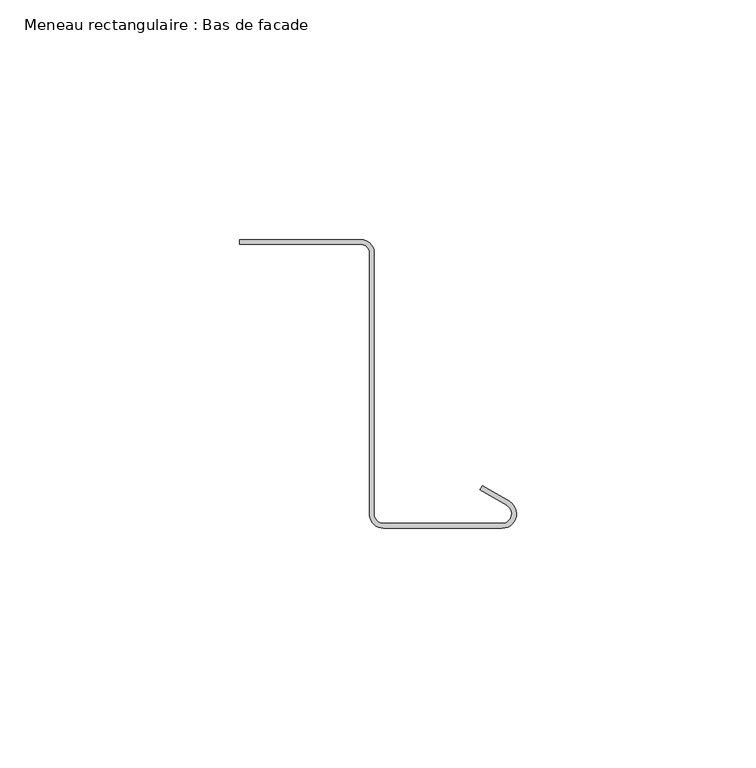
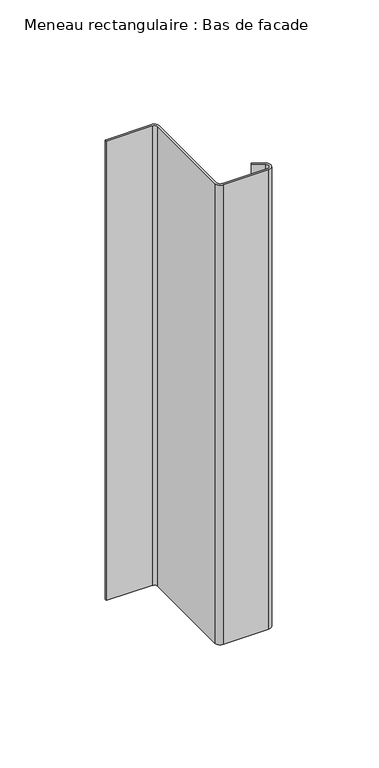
"""IFC4 building model written with IfcOpenShell, lengths in millimetres: member geometry, Meneau rectangulaire : Bas de facade."""

from ifc_helpers import new_model, si_unit, point, frame, frame_2d, origin, place, context, project, spatial, polyline, circle_curve, trimmed, segment, composite_curve, outline, extrude, source, transform, mapped, element, save


def meneau_rectangulaire_bas_de_facade_e72d7a95(model_context):
    return source(origin(), model_context, "Body", "SweptSolid", [
        extrude(outline(composite_curve([segment(trimmed(circle_curve(frame_2d((-32.4584179, 0.2088923)), 2.75), [point((-32.4584179, 2.9588923))], [point((-29.7143802, 0.3898824))], False, "CARTESIAN"), True, "CONTINUOUS"), segment(polyline([(-29.7143802, 0.3898824), (-29.7143802, -54.5495817)]), True, "CONTINUOUS"), segment(trimmed(circle_curve(frame_2d((-27.735368, -54.2605998)), 2.0), [point((-29.7143802, -54.5495817))], [point((-27.735368, -56.2605998))], True, "CARTESIAN"), True, "CONTINUOUS"), segment(polyline([(-27.735368, -56.2605998), (-3.0, -56.2605998)]), True, "CONTINUOUS"), segment(trimmed(circle_curve(frame_2d((-3.0, -54.2605998)), 2.0), [point((-3.0, -56.2605998))], [point((-2.0, -52.528549))], True, "CARTESIAN"), True, "CONTINUOUS"), segment(polyline([(-2.0, -52.528549), (-7.6638061, -49.258549), (-7.1638061, -48.3925235), (-1.5, -51.6625235)]), True, "CONTINUOUS"), segment(trimmed(circle_curve(frame_2d((-3.0, -54.2605998)), 3.0), [point((-1.5, -51.6625235))], [point((-3.0, -57.2605998))], False, "CARTESIAN"), True, "CONTINUOUS"), segment(polyline([(-3.0, -57.2605998), (-27.735368, -57.2605998)]), True, "CONTINUOUS"), segment(trimmed(circle_curve(frame_2d((-27.735368, -54.2605998)), 3.0), [point((-27.735368, -57.2605998))], [point((-30.7239521, -54.522067))], False, "CARTESIAN"), True, "CONTINUOUS"), segment(polyline([(-30.7239521, -54.522067), (-30.7239521, 0.4415475)]), True, "CONTINUOUS"), segment(trimmed(circle_curve(frame_2d((-32.4584179, 0.2088923)), 1.75), [point((-30.7239521, 0.4415475))], [point((-32.4584179, 1.9588923))], True, "CARTESIAN"), True, "CONTINUOUS"), segment(polyline([(-32.4584179, 1.9588923), (-57.8548383, 1.9588923), (-57.8548383, 2.9588923), (-32.4584179, 2.9588923)]), True, "CONTINUOUS")], self_intersect=False)), frame((0.0, 0.0, -267.0), z_axis=(0.0, 0.0, 1.0), x_axis=(1.0, 0.0, 0.0)), (0.0, 0.0, 1.0), 267.0),
    ])


if __name__ == "__main__":
    model = new_model("IFC4")
    model_context = context("Model", 3, world=origin())
    ifc_project = project(units=[si_unit("LENGTHUNIT", "METRE", prefix="MILLI")], contexts=[model_context])
    site = spatial("IfcSite", under=ifc_project)
    building = spatial("IfcBuilding", under=site)
    placement = place(None, origin())
    meneau_rectangulaire_bas_de_facade_shape = meneau_rectangulaire_bas_de_facade_e72d7a95(model_context)
    element("IfcMember", 1, ObjectType="Meneau rectangulaire : Bas de facade", at=placement, inside=building, context=model_context, shape_type="MappedRepresentation", body=[
        mapped(meneau_rectangulaire_bas_de_facade_shape, transform((0.0, 0.0, 0.0), x_axis=(1.0, 0.0, 0.0), y_axis=(0.0, 1.0, 0.0), z_axis=(0.0, 0.0, 1.0))),
    ])
    save(model, "model.ifc")
